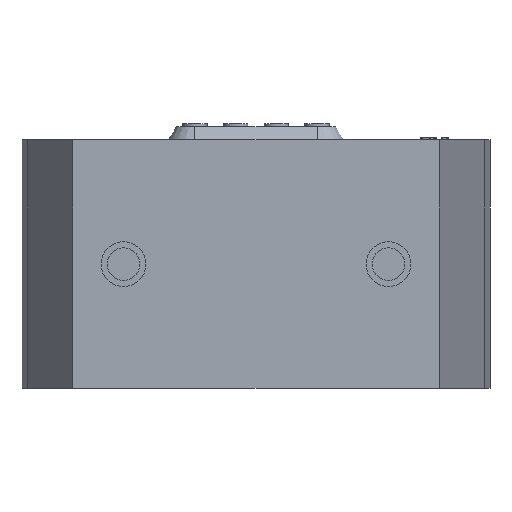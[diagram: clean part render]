
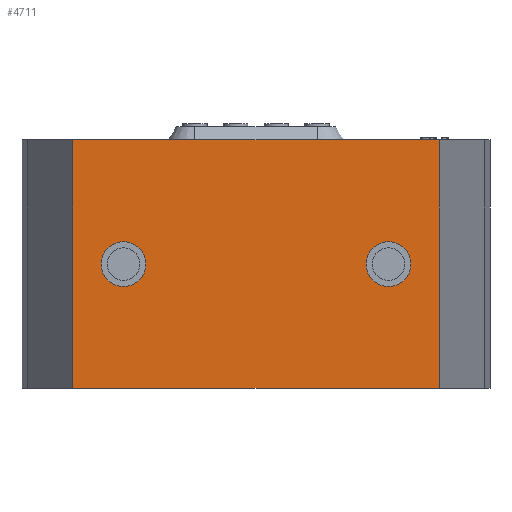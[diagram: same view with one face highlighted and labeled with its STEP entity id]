
A CAD part, front view. The second image highlights one B-rep face of the part: STEP entity #4711.
In plain terms, the highlighted planar face has unit normal (0, -1, 0).
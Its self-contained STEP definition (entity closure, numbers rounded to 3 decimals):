
#4711=ADVANCED_FACE('',(#8776,#8778,#8780),#8782,.T.);
#8776=FACE_BOUND('',#8777,.T.);
#8777=EDGE_LOOP('',(#11736,#11737,#11738,#11739));
#8778=FACE_BOUND('',#8779,.T.);
#8779=EDGE_LOOP('',(#11740));
#8780=FACE_BOUND('',#8781,.T.);
#8781=EDGE_LOOP('',(#11741));
#8782=PLANE('',#8783);
#8783=AXIS2_PLACEMENT_3D('',#8784,#8785,#8786);
#8784=CARTESIAN_POINT('',(-90.,-83.,0.));
#8785=DIRECTION('',(0.,-1.,0.));
#8786=DIRECTION('',(1.,0.,0.));
#11736=ORIENTED_EDGE('',*,*,#13883,.T.);
#11737=ORIENTED_EDGE('',*,*,#13878,.T.);
#11738=ORIENTED_EDGE('',*,*,#12331,.F.);
#11739=ORIENTED_EDGE('',*,*,#13882,.F.);
#11740=ORIENTED_EDGE('',*,*,#13884,.T.);
#11741=ORIENTED_EDGE('',*,*,#13885,.T.);
#12331=EDGE_CURVE('',#13922,#13917,#13924,.T.);
#13878=EDGE_CURVE('',#16500,#13917,#16504,.T.);
#13882=EDGE_CURVE('',#16508,#13922,#16510,.T.);
#13883=EDGE_CURVE('',#16508,#16500,#16511,.T.);
#13884=EDGE_CURVE('',#16512,#16512,#16513,.F.);
#13885=EDGE_CURVE('',#16514,#16514,#16515,.F.);
#13917=VERTEX_POINT('',#16574);
#13922=VERTEX_POINT('',#16584);
#13924=LINE('',#16588,#16589);
#16500=VERTEX_POINT('',#22973);
#16504=LINE('',#22981,#22982);
#16508=VERTEX_POINT('',#22992);
#16510=LINE('',#22996,#22997);
#16511=LINE('',#22999,#23000);
#16512=VERTEX_POINT('',#23002);
#16513=CIRCLE('',#23003,11.);
#16514=VERTEX_POINT('',#23007);
#16515=CIRCLE('',#23008,11.);
#16574=CARTESIAN_POINT('',(90.,-83.,122.));
#16584=CARTESIAN_POINT('',(-90.,-83.,122.));
#16588=CARTESIAN_POINT('',(-90.,-83.,122.));
#16589=VECTOR('',#16590,1.);
#16590=DIRECTION('',(1.,0.,0.));
#22973=CARTESIAN_POINT('',(90.,-83.,0.));
#22981=CARTESIAN_POINT('',(90.,-83.,0.));
#22982=VECTOR('',#22983,1.);
#22983=DIRECTION('',(0.,0.,1.));
#22992=CARTESIAN_POINT('',(-90.,-83.,0.));
#22996=CARTESIAN_POINT('',(-90.,-83.,0.));
#22997=VECTOR('',#22998,1.);
#22998=DIRECTION('',(0.,0.,1.));
#22999=CARTESIAN_POINT('',(-90.,-83.,0.));
#23000=VECTOR('',#23001,1.);
#23001=DIRECTION('',(1.,0.,0.));
#23002=CARTESIAN_POINT('',(-54.,-83.,61.));
#23003=AXIS2_PLACEMENT_3D('',#23004,#23005,#23006);
#23004=CARTESIAN_POINT('',(-65.,-83.,61.));
#23005=DIRECTION('',(0.,-1.,0.));
#23006=DIRECTION('',(1.,0.,0.));
#23007=CARTESIAN_POINT('',(76.,-83.,61.));
#23008=AXIS2_PLACEMENT_3D('',#23009,#23010,#23011);
#23009=CARTESIAN_POINT('',(65.,-83.,61.));
#23010=DIRECTION('',(0.,-1.,0.));
#23011=DIRECTION('',(1.,0.,0.));
